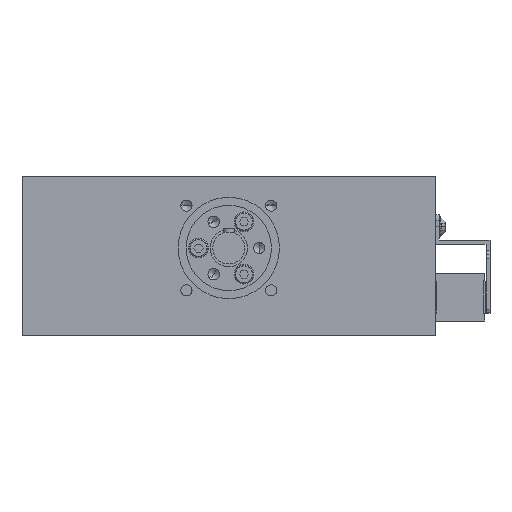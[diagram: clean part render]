
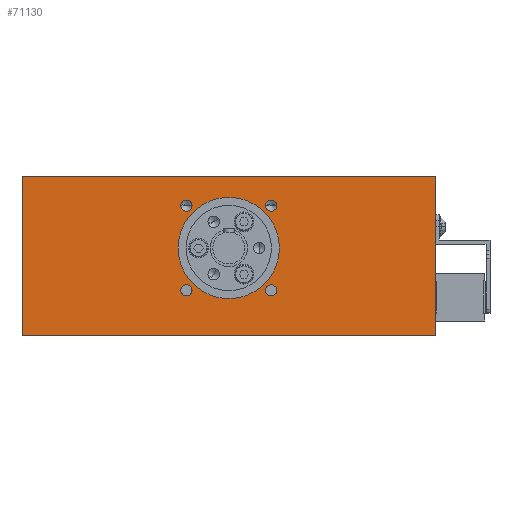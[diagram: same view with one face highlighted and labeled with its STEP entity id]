
A CAD part, front view. The second image highlights one B-rep face of the part: STEP entity #71130.
In plain terms, the highlighted planar face has unit normal (0, -1, 0) as drawn and (0, 0, 1) by its records, which use the part's own axes.
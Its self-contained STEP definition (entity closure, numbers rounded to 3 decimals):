
#69990=CARTESIAN_POINT('',(479.669,255.459,160.));
#70000=DIRECTION('',(0.,0.,1.));
#70010=DIRECTION('',(-1.,0.,0.));
#70020=AXIS2_PLACEMENT_3D('',#69990,#70000,#70010);
#70030=PLANE('',#70020);
#70040=CARTESIAN_POINT('',(509.571,233.659,160.));
#70050=DIRECTION('',(1.,0.,0.));
#70060=VECTOR('',#70050,1.);
#70070=LINE('',#70040,#70060);
#70080=CARTESIAN_POINT('',(479.669,233.659,160.));
#70090=VERTEX_POINT('',#70080);
#70100=CARTESIAN_POINT('',(634.669,233.659,160.));
#70110=VERTEX_POINT('',#70100);
#70120=EDGE_CURVE('',#70090,#70110,#70070,.T.);
#70130=ORIENTED_EDGE('',*,*,#70120,.T.);
#70140=CARTESIAN_POINT('',(479.669,0.,160.));
#70150=DIRECTION('',(0.,-1.,0.));
#70160=VECTOR('',#70150,1.);
#70170=LINE('',#70140,#70160);
#70180=CARTESIAN_POINT('',(479.669,293.459,160.));
#70190=VERTEX_POINT('',#70180);
#70200=EDGE_CURVE('',#70190,#70090,#70170,.T.);
#70210=ORIENTED_EDGE('',*,*,#70200,.T.);
#70220=CARTESIAN_POINT('',(509.571,293.459,160.));
#70230=DIRECTION('',(1.,0.,0.));
#70240=VECTOR('',#70230,1.);
#70250=LINE('',#70220,#70240);
#70260=CARTESIAN_POINT('',(634.669,293.459,160.));
#70270=VERTEX_POINT('',#70260);
#70280=EDGE_CURVE('',#70190,#70270,#70250,.T.);
#70290=ORIENTED_EDGE('',*,*,#70280,.F.);
#70300=CARTESIAN_POINT('',(634.669,0.,160.));
#70310=DIRECTION('',(0.,1.,0.));
#70320=VECTOR('',#70310,1.);
#70330=LINE('',#70300,#70320);
#70340=EDGE_CURVE('',#70110,#70270,#70330,.T.);
#70350=ORIENTED_EDGE('',*,*,#70340,.T.);
#70360=EDGE_LOOP('',(#70350,#70290,#70210,#70130));
#70370=FACE_OUTER_BOUND('',#70360,.T.);
#70380=CARTESIAN_POINT('',(557.169,266.459,160.));
#70390=DIRECTION('',(0.,0.,1.));
#70400=DIRECTION('',(1.,0.,0.));
#70410=AXIS2_PLACEMENT_3D('',#70380,#70390,#70400);
#70420=CIRCLE('',#70410,19.);
#70430=CARTESIAN_POINT('',(576.169,266.459,160.));
#70440=VERTEX_POINT('',#70430);
#70450=CARTESIAN_POINT('',(538.169,266.459,160.));
#70460=VERTEX_POINT('',#70450);
#70470=EDGE_CURVE('',#70440,#70460,#70420,.T.);
#70480=ORIENTED_EDGE('',*,*,#70470,.F.);
#70490=EDGE_CURVE('',#70460,#70440,#70420,.T.);
#70500=ORIENTED_EDGE('',*,*,#70490,.F.);
#70510=EDGE_LOOP('',(#70500,#70480));
#70520=FACE_BOUND('',#70510,.T.);
#70530=CARTESIAN_POINT('',(573.069,250.559,160.));
#70540=DIRECTION('',(0.,0.,1.));
#70550=DIRECTION('',(-1.,0.,0.));
#70560=AXIS2_PLACEMENT_3D('',#70530,#70540,#70550);
#70570=CIRCLE('',#70560,2.1);
#70580=CARTESIAN_POINT('',(570.969,250.559,160.));
#70590=VERTEX_POINT('',#70580);
#70600=CARTESIAN_POINT('',(575.169,250.559,160.));
#70610=VERTEX_POINT('',#70600);
#70620=EDGE_CURVE('',#70590,#70610,#70570,.T.);
#70630=ORIENTED_EDGE('',*,*,#70620,.F.);
#70640=EDGE_CURVE('',#70610,#70590,#70570,.T.);
#70650=ORIENTED_EDGE('',*,*,#70640,.F.);
#70660=EDGE_LOOP('',(#70650,#70630));
#70670=FACE_BOUND('',#70660,.T.);
#70680=CARTESIAN_POINT('',(541.269,250.559,160.));
#70690=DIRECTION('',(0.,0.,1.));
#70700=DIRECTION('',(-1.,0.,0.));
#70710=AXIS2_PLACEMENT_3D('',#70680,#70690,#70700);
#70720=CIRCLE('',#70710,2.1);
#70730=CARTESIAN_POINT('',(539.169,250.559,160.));
#70740=VERTEX_POINT('',#70730);
#70750=CARTESIAN_POINT('',(543.369,250.559,160.));
#70760=VERTEX_POINT('',#70750);
#70770=EDGE_CURVE('',#70740,#70760,#70720,.T.);
#70780=ORIENTED_EDGE('',*,*,#70770,.F.);
#70790=EDGE_CURVE('',#70760,#70740,#70720,.T.);
#70800=ORIENTED_EDGE('',*,*,#70790,.F.);
#70810=EDGE_LOOP('',(#70800,#70780));
#70820=FACE_BOUND('',#70810,.T.);
#70830=CARTESIAN_POINT('',(541.269,282.359,160.));
#70840=DIRECTION('',(0.,0.,1.));
#70850=DIRECTION('',(-1.,0.,0.));
#70860=AXIS2_PLACEMENT_3D('',#70830,#70840,#70850);
#70870=CIRCLE('',#70860,2.1);
#70880=CARTESIAN_POINT('',(539.169,282.359,160.));
#70890=VERTEX_POINT('',#70880);
#70900=CARTESIAN_POINT('',(543.369,282.359,160.));
#70910=VERTEX_POINT('',#70900);
#70920=EDGE_CURVE('',#70890,#70910,#70870,.T.);
#70930=ORIENTED_EDGE('',*,*,#70920,.F.);
#70940=EDGE_CURVE('',#70910,#70890,#70870,.T.);
#70950=ORIENTED_EDGE('',*,*,#70940,.F.);
#70960=EDGE_LOOP('',(#70950,#70930));
#70970=FACE_BOUND('',#70960,.T.);
#70980=CARTESIAN_POINT('',(573.069,282.359,160.));
#70990=DIRECTION('',(0.,0.,1.));
#71000=DIRECTION('',(-1.,0.,0.));
#71010=AXIS2_PLACEMENT_3D('',#70980,#70990,#71000);
#71020=CIRCLE('',#71010,2.1);
#71030=CARTESIAN_POINT('',(570.969,282.359,160.));
#71040=VERTEX_POINT('',#71030);
#71050=CARTESIAN_POINT('',(575.169,282.359,160.));
#71060=VERTEX_POINT('',#71050);
#71070=EDGE_CURVE('',#71040,#71060,#71020,.T.);
#71080=ORIENTED_EDGE('',*,*,#71070,.F.);
#71090=EDGE_CURVE('',#71060,#71040,#71020,.T.);
#71100=ORIENTED_EDGE('',*,*,#71090,.F.);
#71110=EDGE_LOOP('',(#71100,#71080));
#71120=FACE_BOUND('',#71110,.T.);
#71130=ADVANCED_FACE('',(#70370,#70520,#70670,#70820,#70970,#71120),
#70030,.T.);
